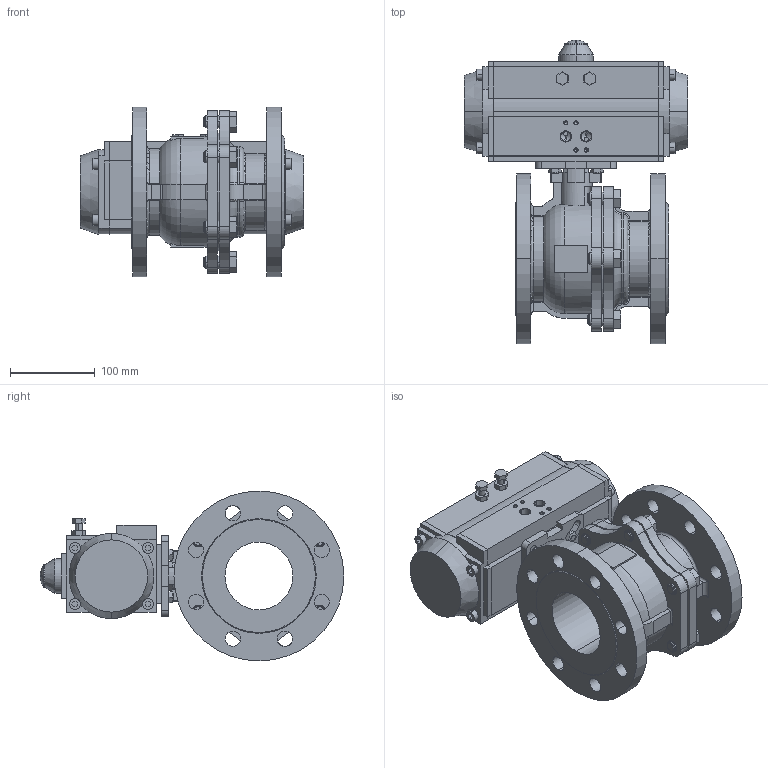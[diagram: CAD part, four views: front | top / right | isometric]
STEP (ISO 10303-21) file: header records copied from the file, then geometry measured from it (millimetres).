
FILE_DESCRIPTION((''),'2;1');
FILE_NAME('BV-22F_RPA_ASM','2024-09-11T',('USER'),(''),'PRO/ENGINEER BY PARAMETRIC TECHNOLOGY CORPORATION, 2011220','PRO/ENGINEER BY PARAMETRIC TECHNOLOGY CORPORATION, 2011220','');
FILE_SCHEMA(('CONFIG_CONTROL_DESIGN'));
Length unit declared in the file: millimetre
Products named in the file (12): KORPUS_KRAN_FL; BOLT_M14X30; SB_KRAN_FL_ASM; KORPUS_PNEVMOPRIVOD; KOLCO_25_GOST13942; KRISKA_VERX; VINT; KRISKA_LEFT; KRISKA_RIGHT; SB_PNEVMOPRIVOD_ASM; B-7798-M8-16; BV-22F_RPA_ASM
Assembly tree (19 placements, depth 3):
  BV-22F_RPA_ASM
    SB_KRAN_FL_ASM
      KORPUS_KRAN_FL
      BOLT_M14X30  x6
    SB_PNEVMOPRIVOD_ASM
      KORPUS_PNEVMOPRIVOD
      KOLCO_25_GOST13942
      KRISKA_VERX
      VINT
      KRISKA_LEFT
      KRISKA_RIGHT
    B-7798-M8-16  x4
Bounding box: 263 x 357.45 x 200 mm (x, y, z)
Volume: 4799662.6 mm3; surface area: 529566.6 mm2
Topology: 17 solids, 55 shells, 896 faces, 2327 edges, 1501 vertices
Faces by surface type: plane 431, cylinder 345, cone 78, bspline 20, torus 20, sphere 2
Entity records: 25670 total; most frequent: CARTESIAN_POINT 5966, DIRECTION 4217, ORIENTED_EDGE 3862, EDGE_CURVE 1993, AXIS2_PLACEMENT_3D 1530, VERTEX_POINT 1313, VECTOR 1157, LINE 1157
